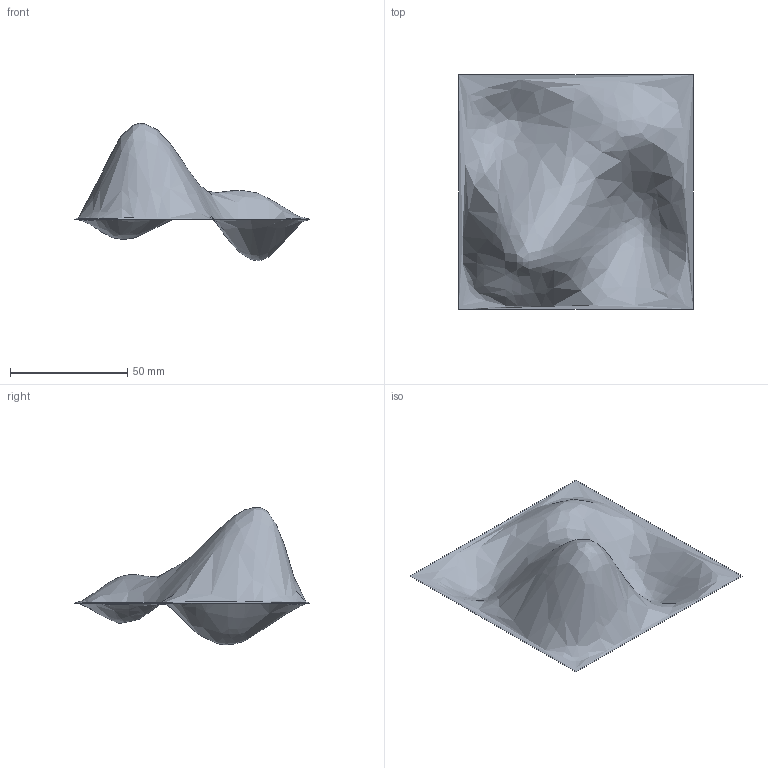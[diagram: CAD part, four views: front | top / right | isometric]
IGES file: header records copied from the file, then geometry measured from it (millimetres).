
Start section: SolidWorks IGES file using NURBS representation for surfaces
Global section: file name: C:\Documents and Settings\Keigo-Takasugi\desktop00000\FreeSurf.IGS; native system: SolidWorks 2007; preprocessor: SolidWorks 2007; author: Keigo-Takasugi; date: 100107.110419; units: millimetre
Bounding box: 100 x 100 x 58.45 mm (x, y, z)
Surface area: 13743.9 mm2 (no closed solid volume)
Topology: 0 solids, 0 shells, 1 faces, 8 edges, 12 vertices
Faces by surface type: bspline 1
